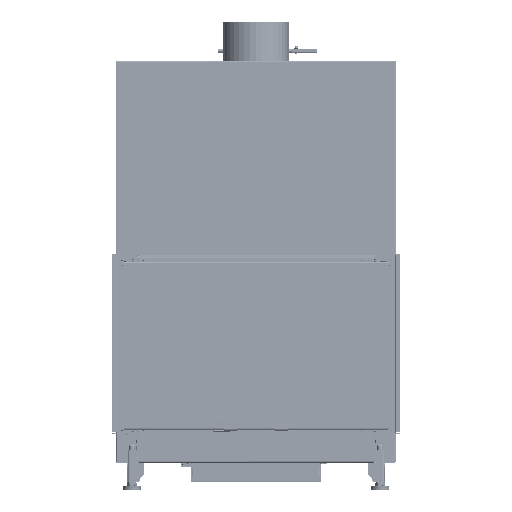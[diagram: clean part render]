
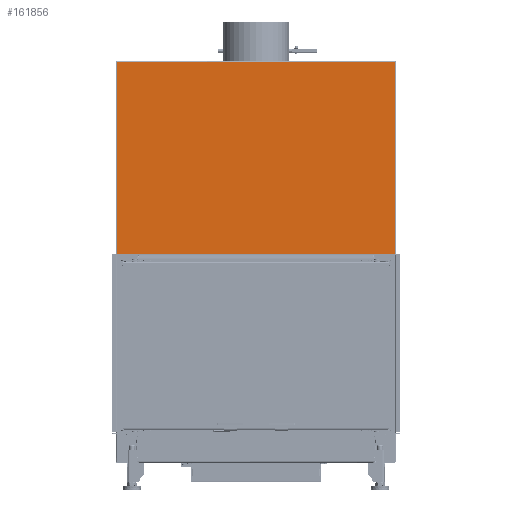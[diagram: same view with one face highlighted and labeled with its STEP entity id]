
A CAD part, front view. The second image highlights one B-rep face of the part: STEP entity #161856.
In plain terms, the highlighted planar face has unit normal (0, -1, 0).
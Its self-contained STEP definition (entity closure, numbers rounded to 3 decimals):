
#13382=FACE_OUTER_BOUND('',#22356,.T.);
#22356=EDGE_LOOP('',(#107050,#107051,#107052,#107053));
#32443=LINE('',#239779,#48458);
#32449=LINE('',#239863,#48464);
#32451=LINE('',#239940,#48466);
#32452=LINE('',#239942,#48467);
#48458=VECTOR('',#190142,10.);
#48464=VECTOR('',#190172,10.);
#48466=VECTOR('',#190186,10.);
#48467=VECTOR('',#190189,10.);
#64466=VERTEX_POINT('',#239738);
#64468=VERTEX_POINT('',#239772);
#64471=VERTEX_POINT('',#239854);
#64472=VERTEX_POINT('',#239862);
#80686=EDGE_CURVE('',#64466,#64468,#32443,.T.);
#80700=EDGE_CURVE('',#64472,#64471,#32449,.T.);
#80709=EDGE_CURVE('',#64468,#64472,#32451,.T.);
#80710=EDGE_CURVE('',#64471,#64466,#32452,.T.);
#107050=ORIENTED_EDGE('',*,*,#80686,.T.);
#107051=ORIENTED_EDGE('',*,*,#80709,.T.);
#107052=ORIENTED_EDGE('',*,*,#80700,.T.);
#107053=ORIENTED_EDGE('',*,*,#80710,.T.);
#152115=PLANE('',#171726);
#161856=ADVANCED_FACE('',(#13382),#152115,.T.);
#171726=AXIS2_PLACEMENT_3D('',#239941,#190187,#190188);
#190142=DIRECTION('',(1.,0.,0.));
#190172=DIRECTION('',(-1.,0.,0.));
#190186=DIRECTION('',(0.,0.,1.));
#190187=DIRECTION('center_axis',(0.,-1.,0.));
#190188=DIRECTION('ref_axis',(1.,0.,0.));
#190189=DIRECTION('',(0.,0.,-1.));
#239738=CARTESIAN_POINT('',(-57.25,-60.,582.25));
#239772=CARTESIAN_POINT('',(717.25,-60.,582.25));
#239779=CARTESIAN_POINT('',(523.625,-60.,582.25));
#239854=CARTESIAN_POINT('',(-57.25,-60.,1114.25));
#239862=CARTESIAN_POINT('',(717.25,-60.,1114.25));
#239863=CARTESIAN_POINT('',(523.625,-60.,1114.25));
#239940=CARTESIAN_POINT('',(717.25,-60.,713.875));
#239941=CARTESIAN_POINT('Origin',(330.,-60.,848.25));
#239942=CARTESIAN_POINT('',(-57.25,-60.,982.625));
